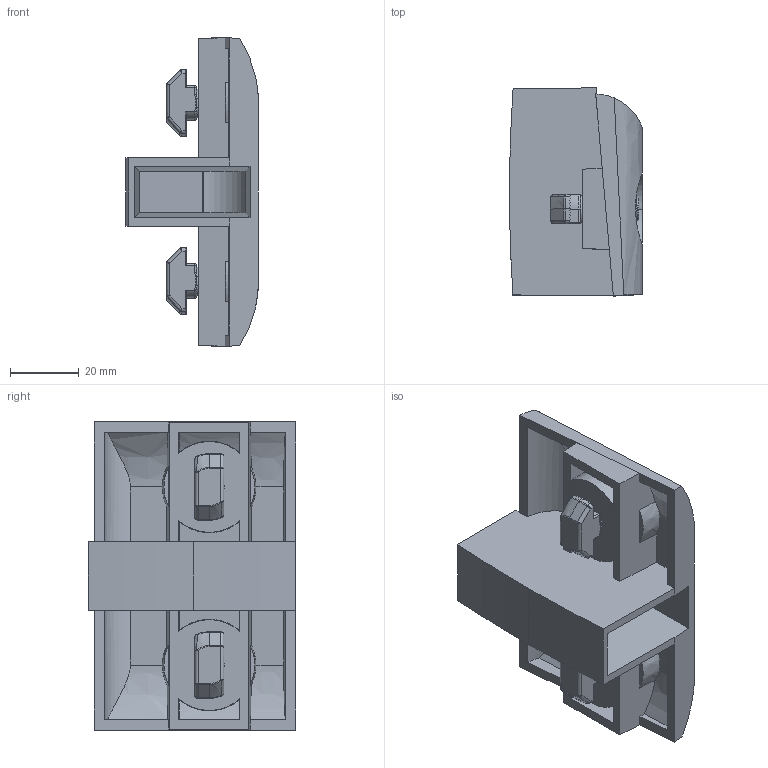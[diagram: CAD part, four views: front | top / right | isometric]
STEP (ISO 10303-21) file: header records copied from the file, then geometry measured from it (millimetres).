
FILE_DESCRIPTION (( 'STEP AP214' ), '1' );
FILE_NAME ('067RCB1COU001.STEP', '2024-09-23T11:09:19', ( '' ), ( '' ), 'SwSTEP 2.0', 'SolidWorks 2023', '' );
FILE_SCHEMA (( 'AUTOMOTIVE_DESIGN' ));
Length unit declared in the file: millimetre
Products named in the file (7): 067RCB1COU001(1); 4DIN934M08MS01; 096HK1030M0820; 067RCB1COU001; 067RCB1COS001; 4DIN125AM8M; 067RCB1COU001(2)
Assembly tree (9 placements, depth 4):
  067RCB1COU001
    067RCB1COU001(2)
      067RCB1COU001(1)
        067RCB1COS001
        4DIN125AM8M  x2
        096HK1030M0820  x2
        4DIN934M08MS01  x2
Bounding box: 38.8 x 60.7 x 90 mm (x, y, z)
Volume: 51219 mm3; surface area: 33675 mm2
Topology: 7 solids, 7 shells, 447 faces, 1149 edges, 700 vertices
Faces by surface type: plane 185, cylinder 122, bspline 82, cone 58
Entity records: 13665 total; most frequent: CARTESIAN_POINT 7658, ORIENTED_EDGE 1370, DIRECTION 1017, EDGE_CURVE 685, VERTEX_POINT 429, AXIS2_PLACEMENT_3D 350, LINE 317, VECTOR 317
